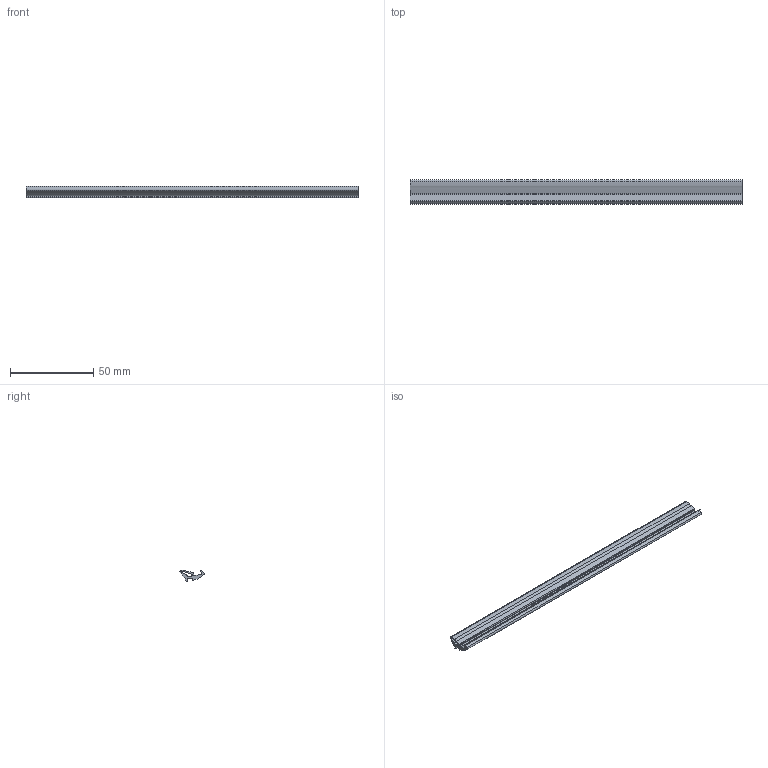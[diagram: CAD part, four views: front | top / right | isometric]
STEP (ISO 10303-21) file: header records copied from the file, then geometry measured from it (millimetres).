
FILE_DESCRIPTION (( 'STEP AP214' ), '1' );
FILE_NAME ('1.6018 Paneelitiiviste 30.STEP', '2024-03-13T11:48:24', ( '' ), ( '' ), 'SwSTEP 2.0', 'SolidWorks 2024', '' );
FILE_SCHEMA (( 'AUTOMOTIVE_DESIGN' ));
Length unit declared in the file: millimetre
Products named in the file (1): 1.6018 Paneelitiiviste 30
Bounding box: 200 x 14.59 x 6.94 mm (x, y, z)
Volume: 7934.9 mm3; surface area: 11766.7 mm2
Topology: 1 solids, 1 shells, 39 faces, 111 edges, 74 vertices
Faces by surface type: cylinder 25, plane 14
Entity records: 1751 total; most frequent: DIRECTION 241, CARTESIAN_POINT 225, ORIENTED_EDGE 222, EDGE_CURVE 111, AXIS2_PLACEMENT_3D 90, VERTEX_POINT 74, LINE 61, VECTOR 61
